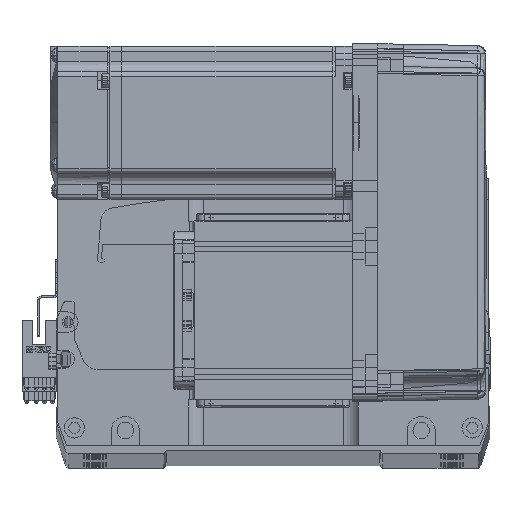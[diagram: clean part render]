
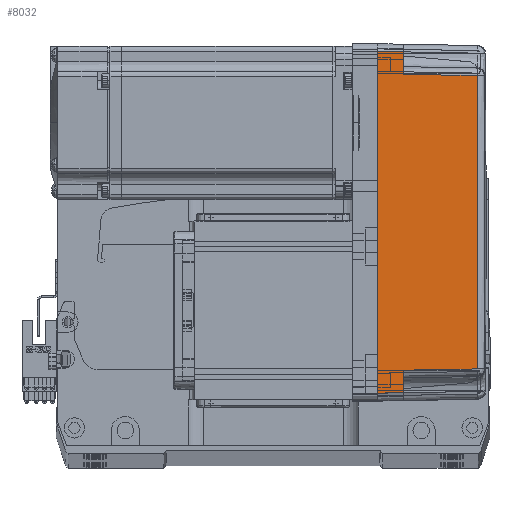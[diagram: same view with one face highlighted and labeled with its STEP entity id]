
A CAD part, top view. The second image highlights one B-rep face of the part: STEP entity #8032.
In plain terms, the highlighted planar face has unit normal (0.018, 0, 1) as drawn and (0, -1, 0.017) by its records, which use the part's own axes.
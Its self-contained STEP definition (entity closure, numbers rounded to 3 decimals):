
#423 = VECTOR ( 'NONE', #33689, 1000. ) ;
#766 = CARTESIAN_POINT ( 'NONE',  ( 66.826, -35.825, 10. ) ) ;
#1885 = ORIENTED_EDGE ( 'NONE', *, *, #68033, .T. ) ;
#2597 = CARTESIAN_POINT ( 'NONE',  ( 57.495, -35.32, 38.985 ) ) ;
#3160 = ORIENTED_EDGE ( 'NONE', *, *, #45690, .T. ) ;
#3727 = VECTOR ( 'NONE', #64745, 1000. ) ;
#5361 = CARTESIAN_POINT ( 'NONE',  ( -66.959, -35.958, 2.39 ) ) ;
#7324 = ORIENTED_EDGE ( 'NONE', *, *, #13033, .T. ) ;
#8032 = ADVANCED_FACE ( 'NONE', ( #55390 ), #47906, .T. ) ;
#10476 = DIRECTION ( 'NONE',  ( -1., 0., 0. ) ) ;
#10800 = DIRECTION ( 'NONE',  ( -0.017, 0.017, 1. ) ) ;
#12627 = EDGE_LOOP ( 'NONE', ( #1885, #18738, #22961, #16898, #3160, #7324, #29963, #17632 ) ) ;
#13033 = EDGE_CURVE ( 'NONE', #27649, #32212, #64429, .T. ) ;
#14180 = DIRECTION ( 'NONE',  ( 0., -0.017, -1. ) ) ;
#15190 = EDGE_CURVE ( 'NONE', #24142, #37794, #52637, .T. ) ;
#16898 = ORIENTED_EDGE ( 'NONE', *, *, #36412, .T. ) ;
#17169 = VECTOR ( 'NONE', #10476, 1000. ) ;
#17632 = ORIENTED_EDGE ( 'NONE', *, *, #15190, .F. ) ;
#18738 = ORIENTED_EDGE ( 'NONE', *, *, #32227, .T. ) ;
#20904 = CARTESIAN_POINT ( 'NONE',  ( -57.495, -35.32, 38.985 ) ) ;
#21724 = CARTESIAN_POINT ( 'NONE',  ( 70., -35.825, 10. ) ) ;
#21942 = VERTEX_POINT ( 'NONE', #64968 ) ;
#22961 = ORIENTED_EDGE ( 'NONE', *, *, #69073, .T. ) ;
#24142 = VERTEX_POINT ( 'NONE', #63772 ) ;
#25122 = CARTESIAN_POINT ( 'NONE',  ( -19.165, -35.316, 39.181 ) ) ;
#26287 = CARTESIAN_POINT ( 'NONE',  ( -67., -36., 0. ) ) ;
#26442 = LINE ( 'NONE', #71870, #31643 ) ;
#27649 = VERTEX_POINT ( 'NONE', #37832 ) ;
#27675 = VECTOR ( 'NONE', #65758, 1000. ) ;
#28420 = CARTESIAN_POINT ( 'NONE',  ( 57.495, -35.32, 38.985 ) ) ;
#29476 = VERTEX_POINT ( 'NONE', #65445 ) ;
#29963 = ORIENTED_EDGE ( 'NONE', *, *, #46875, .F. ) ;
#30468 = VERTEX_POINT ( 'NONE', #28420 ) ;
#31643 = VECTOR ( 'NONE', #10800, 1000. ) ;
#32212 = VERTEX_POINT ( 'NONE', #43909 ) ;
#32227 = EDGE_CURVE ( 'NONE', #42869, #21942, #57293, .T. ) ;
#33606 = LINE ( 'NONE', #60789, #423 ) ;
#33689 = DIRECTION ( 'NONE',  ( -0.017, 0.017, 1. ) ) ;
#36412 = EDGE_CURVE ( 'NONE', #30468, #29476, #61445, .T. ) ;
#37565 = DIRECTION ( 'NONE',  ( 0., -1., 0.017 ) ) ;
#37794 = VERTEX_POINT ( 'NONE', #26287 ) ;
#37832 = CARTESIAN_POINT ( 'NONE',  ( -58., -35.825, 10. ) ) ;
#39586 = CARTESIAN_POINT ( 'NONE',  ( 70., -35.825, 10. ) ) ;
#42869 = VERTEX_POINT ( 'NONE', #766 ) ;
#43909 = CARTESIAN_POINT ( 'NONE',  ( -66.826, -35.825, 10. ) ) ;
#45300 = DIRECTION ( 'NONE',  ( -1., 0., 0. ) ) ;
#45690 = EDGE_CURVE ( 'NONE', #29476, #27649, #51269, .T. ) ;
#46875 = EDGE_CURVE ( 'NONE', #37794, #32212, #61207, .T. ) ;
#47906 = PLANE ( 'NONE',  #51249 ) ;
#48701 = VECTOR ( 'NONE', #45300, 1000. ) ;
#51249 = AXIS2_PLACEMENT_3D ( 'NONE', #71083, #37565, #14180 ) ;
#51269 = LINE ( 'NONE', #20904, #27675 ) ;
#51593 = VECTOR ( 'NONE', #63458, 1000. ) ;
#52637 = LINE ( 'NONE', #59312, #3727 ) ;
#53166 = CARTESIAN_POINT ( 'NONE',  ( -57.495, -35.32, 38.985 ) ) ;
#55390 = FACE_OUTER_BOUND ( 'NONE', #12627, .T. ) ;
#57293 = LINE ( 'NONE', #21724, #17169 ) ;
#59312 = CARTESIAN_POINT ( 'NONE',  ( 0., -36., 0. ) ) ;
#60789 = CARTESIAN_POINT ( 'NONE',  ( 67., -36., 0. ) ) ;
#61207 = LINE ( 'NONE', #5361, #51593 ) ;
#61445 = B_SPLINE_CURVE_WITH_KNOTS ( 'NONE', 3,
 ( #2597, #64408, #25122, #53166 ),
 .UNSPECIFIED., .F., .F.,
 ( 4, 4 ),
 ( 0., 1. ),
 .UNSPECIFIED. ) ;
#63458 = DIRECTION ( 'NONE',  ( 0.017, 0.017, 1. ) ) ;
#63772 = CARTESIAN_POINT ( 'NONE',  ( 67., -36., 0. ) ) ;
#64408 = CARTESIAN_POINT ( 'NONE',  ( 19.165, -35.316, 39.181 ) ) ;
#64429 = LINE ( 'NONE', #39586, #48701 ) ;
#64745 = DIRECTION ( 'NONE',  ( -1., 0., 0. ) ) ;
#64968 = CARTESIAN_POINT ( 'NONE',  ( 58., -35.825, 10. ) ) ;
#65445 = CARTESIAN_POINT ( 'NONE',  ( -57.495, -35.32, 38.985 ) ) ;
#65758 = DIRECTION ( 'NONE',  ( -0.017, -0.017, -1. ) ) ;
#68033 = EDGE_CURVE ( 'NONE', #24142, #42869, #33606, .T. ) ;
#69073 = EDGE_CURVE ( 'NONE', #21942, #30468, #26442, .T. ) ;
#71083 = CARTESIAN_POINT ( 'NONE',  ( 70., -36., 0. ) ) ;
#71870 = CARTESIAN_POINT ( 'NONE',  ( 58., -35.825, 10. ) ) ;
